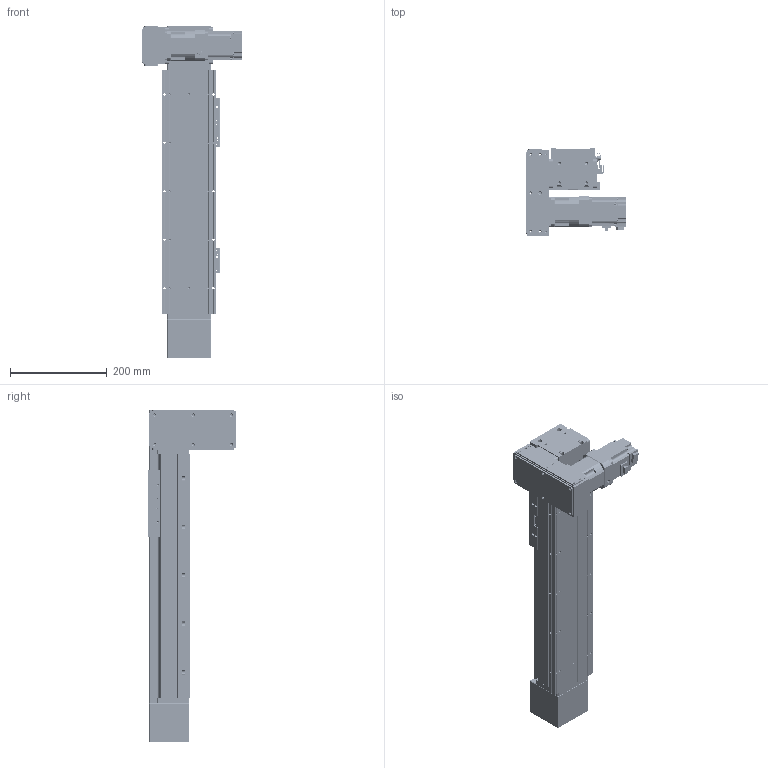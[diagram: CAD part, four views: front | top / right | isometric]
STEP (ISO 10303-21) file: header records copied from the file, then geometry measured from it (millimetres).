
FILE_DESCRIPTION(/* description */ ('MANUFACTURE'),/* implementation_level */ '2;1');
FILE_NAME(/* name */ '\\192.168.0.160\disk1\HAN SHIN Master\B-설계부문\C-표준\B-2024년\BC02-표준도면\+로봇 개선표준도면\홈페이지 표준 도면\홈페이지 최종 작업 폴더\3D\HSB\HSB90\DL\HSB90-DL2G-N-0300-R.stp',/* time_stamp */ '2025-04-25T14:26:04+09:00',/* author */ ('user'),/* organization */ (''),/* preprocessor_version */ 'ST-DEVELOPER v18.1',/* originating_system */ 'Autodesk Inventor 2022',/* authorisation */ 'LIP');
FILE_SCHEMA (('CONFIG_CONTROL_DESIGN'));
Products named in the file (31): HSB90-DL2G-N-0500-R; HSB90 BASE; HS90 TABLE-SR20W; HSB90 FRONT HOUSING (Connecting Shaft); HSB90 REAR HOUSING; HSB90 COVER; SIDE COVER; UPCOVER; HSB55 TENSION PLATE; HG90STOPPER - 27L; HSB90 REAR PULLEY; NSK_6903; HSB55 REAR SHAFT; HSB55 ACRYL COVER; PGX62-H-1_3; hg-kr23_; MOTOR PLATE-200W(MITSUBISHI); HSB90 END COVER; HSB160 BEARING OVER; HSB160 SHAFT-1; NSK_6006; HR120 SENSOR DOG; hsr_ftht_A-M6F_grease_nipple_joint; NIPPLE CAP(신규); SENSOR BRK(EE-SX674A); EE_SX674A; HR65-BELT COVER-COVER3; HR75-LR-BELT COVER(200W); HSB75 D MOTOR PLATE-N; HR75-BELT COVER-COVER; HR75-BELT COVER-COVER2
Assembly tree (48 placements, depth 2):
  HSB90-DL2G-N-0500-R
    HSB90 BASE
    HS90 TABLE-SR20W
    HSB90 FRONT HOUSING (Connecting Shaft)
    HSB90 COVER  x2
    HSB90 REAR HOUSING
    SIDE COVER  x2
    UPCOVER
    HSB55 TENSION PLATE  x2
    HG90STOPPER - 27L  x4
    HSB90 REAR PULLEY
    NSK_6903  x2
    HSB55 REAR SHAFT
    HSB55 ACRYL COVER  x4
    PGX62-H-1_3
    hg-kr23_
    MOTOR PLATE-200W(MITSUBISHI)
    HSB90 END COVER
    HSB160 BEARING OVER
    HSB160 SHAFT-1
    NSK_6006  x2
    SENSOR BRK(EE-SX674A)  x3
    EE_SX674A  x3
    HR120 SENSOR DOG
    hsr_ftht_A-M6F_grease_nipple_joint  x2
    NIPPLE CAP(신규)  x2
    HR75-BELT COVER-COVER2  x2
    HR65-BELT COVER-COVER3
    HR75-LR-BELT COVER(200W)
    HSB75 D MOTOR PLATE-N
    HR75-BELT COVER-COVER
Bounding box: 206.6 x 181.5 x 685 mm (x, y, z)
Volume: 3048439.8 mm3; surface area: 1107184.9 mm2
Topology: 123 solids, 123 shells, 6171 faces, 17066 edges, 11263 vertices
Faces by surface type: plane 4666, cylinder 1085, cone 282, sphere 70, torus 49, bspline 19
Full cylindrical faces by diameter (mm): 2.013 x4, 2.459 x76, 3.242 x50, 3.3 x5, 3.4 x22, 3.5 x22, 4 x1, 4.134 x42, 4.2 x10, 4.5 x34, 4.917 x14, 5 x24, 5.5 x42, 5.6 x10, 5.8 x4, 5.9 x8, 6 x10, 6.5 x4, 7 x1, 8 x13, 8.5 x4, 9 x4, 9.5 x34, 14 x3, 14.2 x1, 15 x5, 16 x2, 16.2 x2, 17 x7, 19.8 x3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
Entity records: 138163 total; most frequent: CARTESIAN_POINT 27233, ORIENTED_EDGE 22958, DIRECTION 22089, EDGE_CURVE 11479, LINE 8821, VECTOR 8821, VERTEX_POINT 7652, AXIS2_PLACEMENT_3D 6634
